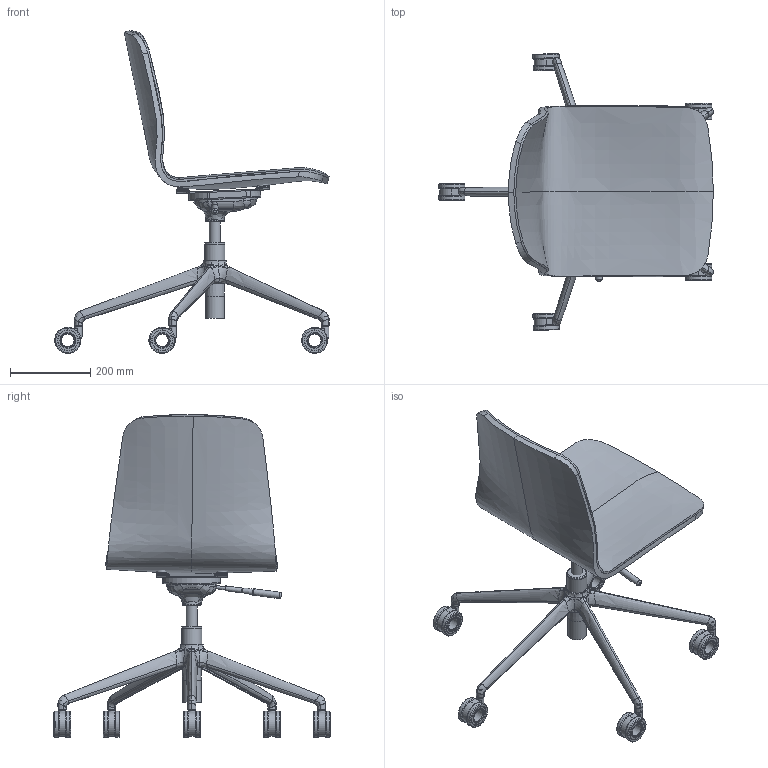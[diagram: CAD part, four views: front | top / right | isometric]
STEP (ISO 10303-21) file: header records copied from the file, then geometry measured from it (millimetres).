
FILE_DESCRIPTION( ('This file contains a STEP AP42 implementation' ,'as created by ZW3D STEP Interface translator.') ,'2;1' );
FILE_NAME( 'ELIOTT-CHAISE-5-BRANCHES-ET-ROULETTES.stp' ,'24 911.111159', (''), ('ZWCAD Software Co.'), 'Version 1.0', 'ZW3D to STEP translator', '' );
FILE_SCHEMA(('AUTOMOTIVE_DESIGN { 1 0 10303 214 1 1 1 1 }'));
Length unit declared in the file: millimetre
Products named in the file (18): 0; ALC-M-660 + SM835 +castors; S3; S6; S7; S7_1; S8; U700; Tilt mechanism; housing; seat plate; ring; axis; lever; gasveer slag 130 Y145; gasveer slag 130 Y145_1; gasveer lager; OGTM wiel_1
Assembly tree (20 placements, depth 3):
  0
  ALC-M-660 + SM835 +castors
    S3
    S6
    S7
    S7_1
    S8
    U700
    Tilt mechanism
      housing
      seat plate
      ring
      axis
      lever
    gasveer slag 130 Y145
      gasveer slag 130 Y145_1
      gasveer lager
    OGTM wiel_1  x5
Bounding box: 684.2 x 688.39 x 803.85 mm (x, y, z)
Volume: 8746211.3 mm3; surface area: 1818956.7 mm2
Topology: 19 solids, 19 shells, 809 faces, 1931 edges, 1220 vertices
Faces by surface type: bspline 291, cylinder 191, plane 189, torus 95, cone 31, sphere 12
Full cylindrical faces by diameter (mm): 8 x5, 10 x5, 11 x5, 12 x1, 16 x1, 18 x5, 26 x4, 28 x1, 32 x5, 38 x10, 40 x10, 46 x1, 46.579 x1, 50 x12, 52 x10, 65 x10
Entity records: 118889 total; most frequent: CARTESIAN_POINT 104113, ORIENTED_EDGE 2962, DIRECTION 2261, EDGE_CURVE 1481, AXIS2_PLACEMENT_3D 962, VERTEX_POINT 913, EDGE_LOOP 670, FACE_OUTER_BOUND 620
